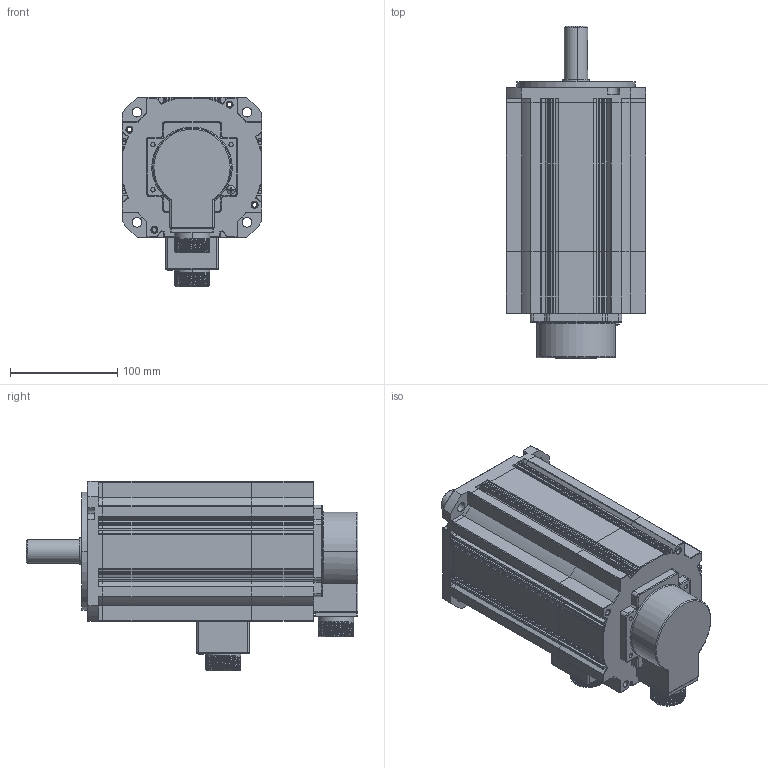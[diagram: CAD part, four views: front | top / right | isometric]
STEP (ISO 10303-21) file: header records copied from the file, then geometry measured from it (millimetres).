
FILE_DESCRIPTION (( 'STEP AP203' ), '1' );
FILE_NAME ('WF130ST-Z1M14320.STEP', '2022-06-06T07:38:38', ( '' ), ( '' ), 'SwSTEP 2.0', 'SolidWorks 2018', '' );
FILE_SCHEMA (( 'CONFIG_CONTROL_DESIGN' ));
Length unit declared in the file: millimetre
Products named in the file (17): hexagon socket head cap screws gb_GB_FASTENER_SCREWS_HSHCS M5X20-N; 粣; 蛌赽軞傖; 瑤脣裔; WF130ST-Z1M14320; deep groove ball bearings gb_Rolling bearings 6204 GB 276-94; jike; cross recessed pan head screws gb_GB_CROSS_SCREWS_TYPE1 M4X12-12  H type-N; 瑤脣窒煦; 惕掅綴傷裔; ヶ傷裔; deep groove ball bearings gb_Rolling bearings 6205 GB 276-94; 盓傅啣; 晤鎢欶裔; 晤鎢ん; 脣釱1; cross recessed pan head screws gb_GB_CROSS_SCREWS_TYPE1 M3X12-12  H type-N
Assembly tree (20 placements, depth 3):
  WF130ST-Z1M14320
    jike
    瑤脣窒煦
      瑤脣裔
      脣釱1
      盓傅啣
    ヶ傷裔
    晤鎢欶裔
    脣釱1
    hexagon socket head cap screws gb_GB_FASTENER_SCREWS_HSHCS M5X20-N
    cross recessed pan head screws gb_GB_CROSS_SCREWS_TYPE1 M4X12-12  H type-N
    cross recessed pan head screws gb_GB_CROSS_SCREWS_TYPE1 M3X12-12  H type-N  x2
    晤鎢ん
    蛌赽軞傖
      粣
      deep groove ball bearings gb_Rolling bearings 6205 GB 276-94  x2
      deep groove ball bearings gb_Rolling bearings 6204 GB 276-94  x2
    惕掅綴傷裔
Bounding box: 130 x 309 x 176 mm (x, y, z)
Volume: 1290453.1 mm3; surface area: 463891.3 mm2
Topology: 18 solids, 18 shells, 2187 faces, 6502 edges, 4109 vertices
Faces by surface type: cylinder 899, plane 561, torus 369, sphere 224, bspline 114, cone 20
Entity records: 69126 total; most frequent: CARTESIAN_POINT 20928, ORIENTED_EDGE 9934, DIRECTION 9751, EDGE_CURVE 4967, AXIS2_PLACEMENT_3D 3887, VERTEX_POINT 3123, CIRCLE 2093, EDGE_LOOP 2038
